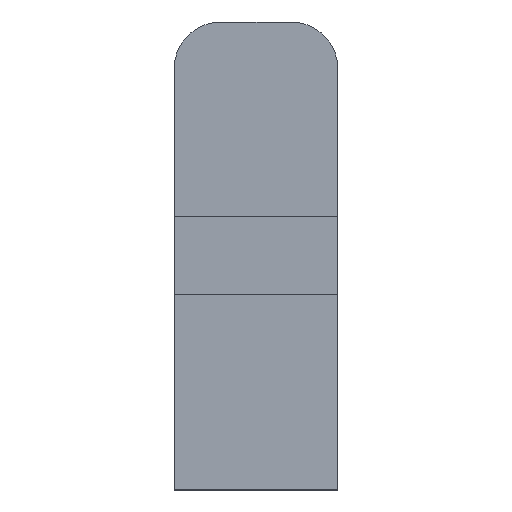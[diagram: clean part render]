
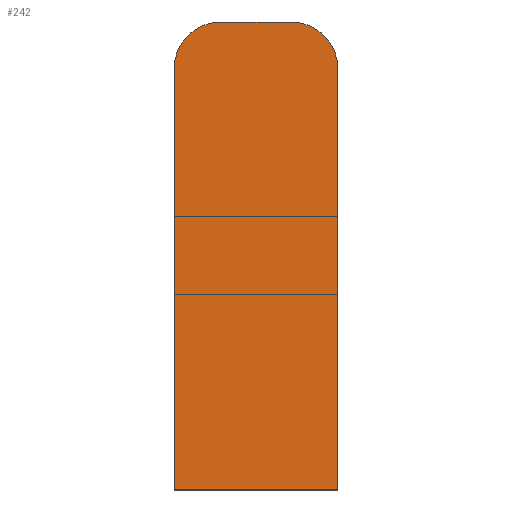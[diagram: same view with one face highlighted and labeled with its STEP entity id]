
A CAD part, front view. The second image highlights one B-rep face of the part: STEP entity #242.
In plain terms, the highlighted planar face has unit normal (0, -1, 0).
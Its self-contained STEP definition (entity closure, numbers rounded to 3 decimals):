
#8 = ORIENTED_EDGE ( 'NONE', *, *, #330, .T. ) ;
#24 = ORIENTED_EDGE ( 'NONE', *, *, #280, .T. ) ;
#50 = ORIENTED_EDGE ( 'NONE', *, *, #306, .T. ) ;
#83 = ORIENTED_EDGE ( 'NONE', *, *, #291, .T. ) ;
#84 = ORIENTED_EDGE ( 'NONE', *, *, #293, .T. ) ;
#96 = FACE_OUTER_BOUND ( 'NONE', #164, .T. ) ;
#101 = ORIENTED_EDGE ( 'NONE', *, *, #262, .T. ) ;
#124 = VECTOR ( 'NONE', #498, 1000. ) ;
#146 = VECTOR ( 'NONE', #456, 1000. ) ;
#147 = LINE ( 'NONE', #450, #146 ) ;
#164 = EDGE_LOOP ( 'NONE', ( #83, #84, #50, #24, #8, #101 ) ) ;
#177 = LINE ( 'NONE', #544, #178 ) ;
#178 = VECTOR ( 'NONE', #545, 1000. ) ;
#191 = CIRCLE ( 'NONE', #266, 3. ) ;
#192 = LINE ( 'NONE', #502, #196 ) ;
#196 = VECTOR ( 'NONE', #513, 1000. ) ;
#209 = CIRCLE ( 'NONE', #340, 3. ) ;
#213 = LINE ( 'NONE', #497, #124 ) ;
#242 = ADVANCED_FACE ( 'NONE', ( #96 ), #405, .F. ) ;
#262 = EDGE_CURVE ( 'NONE', #369, #370, #147, .T. ) ;
#266 = AXIS2_PLACEMENT_3D ( 'NONE', #494, #503, #504 ) ;
#273 = AXIS2_PLACEMENT_3D ( 'NONE', #409, #415, #416 ) ;
#280 = EDGE_CURVE ( 'NONE', #377, #366, #209, .T. ) ;
#291 = EDGE_CURVE ( 'NONE', #370, #372, #213, .T. ) ;
#293 = EDGE_CURVE ( 'NONE', #372, #374, #191, .T. ) ;
#306 = EDGE_CURVE ( 'NONE', #374, #377, #192, .T. ) ;
#330 = EDGE_CURVE ( 'NONE', #366, #369, #177, .T. ) ;
#340 = AXIS2_PLACEMENT_3D ( 'NONE', #475, #476, #477 ) ;
#366 = VERTEX_POINT ( 'NONE', #570 ) ;
#369 = VERTEX_POINT ( 'NONE', #573 ) ;
#370 = VERTEX_POINT ( 'NONE', #574 ) ;
#372 = VERTEX_POINT ( 'NONE', #576 ) ;
#374 = VERTEX_POINT ( 'NONE', #578 ) ;
#377 = VERTEX_POINT ( 'NONE', #581 ) ;
#405 = PLANE ( 'NONE',  #273 ) ;
#409 = CARTESIAN_POINT ( 'NONE',  ( 0., 0., -1.5 ) ) ;
#415 = DIRECTION ( 'NONE',  ( 0., 1., 0. ) ) ;
#416 = DIRECTION ( 'NONE',  ( -1., 0., 0. ) ) ;
#450 = CARTESIAN_POINT ( 'NONE',  ( 5.25, 0., -16.5 ) ) ;
#456 = DIRECTION ( 'NONE',  ( 1., 0., 0. ) ) ;
#475 = CARTESIAN_POINT ( 'NONE',  ( -2.25, 0., 10.5 ) ) ;
#476 = DIRECTION ( 'NONE',  ( 0., -1., 0. ) ) ;
#477 = DIRECTION ( 'NONE',  ( -1., 0., 0. ) ) ;
#494 = CARTESIAN_POINT ( 'NONE',  ( 2.25, 0., 10.5 ) ) ;
#497 = CARTESIAN_POINT ( 'NONE',  ( 5.25, 0., -16.5 ) ) ;
#498 = DIRECTION ( 'NONE',  ( 0., 0., 1. ) ) ;
#502 = CARTESIAN_POINT ( 'NONE',  ( 2.25, 0., 13.5 ) ) ;
#503 = DIRECTION ( 'NONE',  ( 0., -1., 0. ) ) ;
#504 = DIRECTION ( 'NONE',  ( -1., 0., 0. ) ) ;
#513 = DIRECTION ( 'NONE',  ( -1., 0., 0. ) ) ;
#544 = CARTESIAN_POINT ( 'NONE',  ( -5.25, 0., -16.5 ) ) ;
#545 = DIRECTION ( 'NONE',  ( 0., 0., -1. ) ) ;
#570 = CARTESIAN_POINT ( 'NONE',  ( -5.25, 0., 10.5 ) ) ;
#573 = CARTESIAN_POINT ( 'NONE',  ( -5.25, 0., -16.5 ) ) ;
#574 = CARTESIAN_POINT ( 'NONE',  ( 5.25, 0., -16.5 ) ) ;
#576 = CARTESIAN_POINT ( 'NONE',  ( 5.25, 0., 10.5 ) ) ;
#578 = CARTESIAN_POINT ( 'NONE',  ( 2.25, 0., 13.5 ) ) ;
#581 = CARTESIAN_POINT ( 'NONE',  ( -2.25, 0., 13.5 ) ) ;
